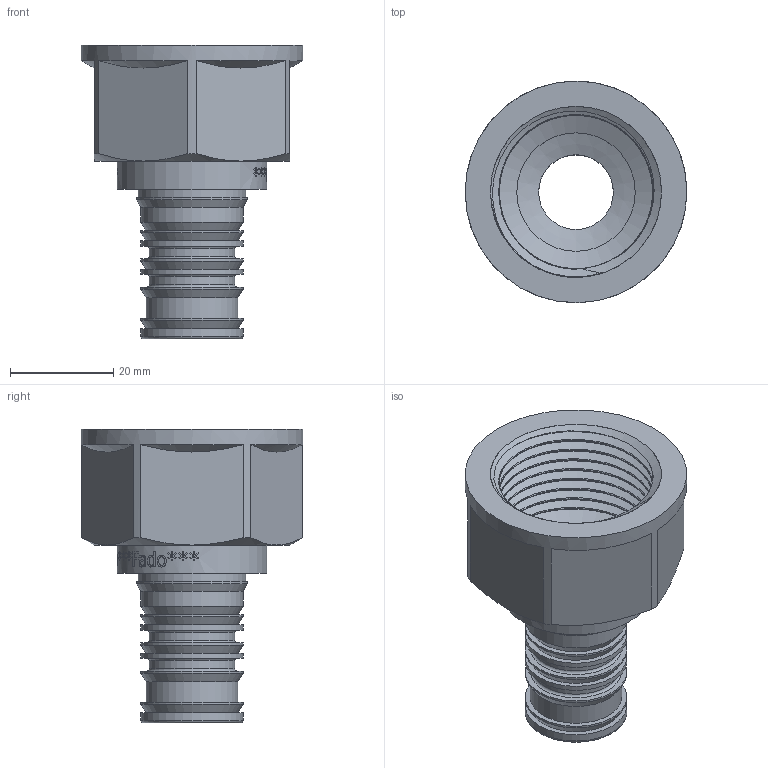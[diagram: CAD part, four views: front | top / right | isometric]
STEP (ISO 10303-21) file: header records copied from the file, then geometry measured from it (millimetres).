
FILE_DESCRIPTION(/* description */ (''),/* implementation_level */ '2;1');
FILE_NAME(/* name */ 'C:\Users\Doom\Desktop\Фадотех\Пресс\HDM15 15.01.2020\HDM15 15.01.2020.stp',/* time_stamp */ '2022-08-11T17:43:07+03:00',/* author */ ('Doom'),/* organization */ (''),/* preprocessor_version */ 'ST-DEVELOPER v18',/* originating_system */ 'Autodesk Inventor 2020',/* authorisation */ '');
FILE_SCHEMA (('AUTOMOTIVE_DESIGN { 1 0 10303 214 3 1 1 }'));
Length unit declared in the file: millimetre
Products named in the file (1): 16 Model 18.12.2019
Bounding box: 43 x 43 x 57 mm (x, y, z)
Volume: 16992.1 mm3; surface area: 17672.7 mm2
Topology: 2 solids, 2 shells, 520 faces, 1453 edges, 979 vertices
Faces by surface type: bspline 329, plane 103, cylinder 60, cone 23, torus 5
Full cylindrical faces by diameter (mm): 14.5 x1, 16.6 x2, 17.8 x1, 19.8 x8, 20.8 x1, 21.5 x1, 23 x1, 29 x1, 29.776 x7, 33.2 x2, 43 x1
Entity records: 27220 total; most frequent: CARTESIAN_POINT 15917, ORIENTED_EDGE 2902, EDGE_CURVE 1451, DIRECTION 1361, VERTEX_POINT 978, B_SPLINE_CURVE_WITH_KNOTS 682, EDGE_LOOP 567, FACE_OUTER_BOUND 520
